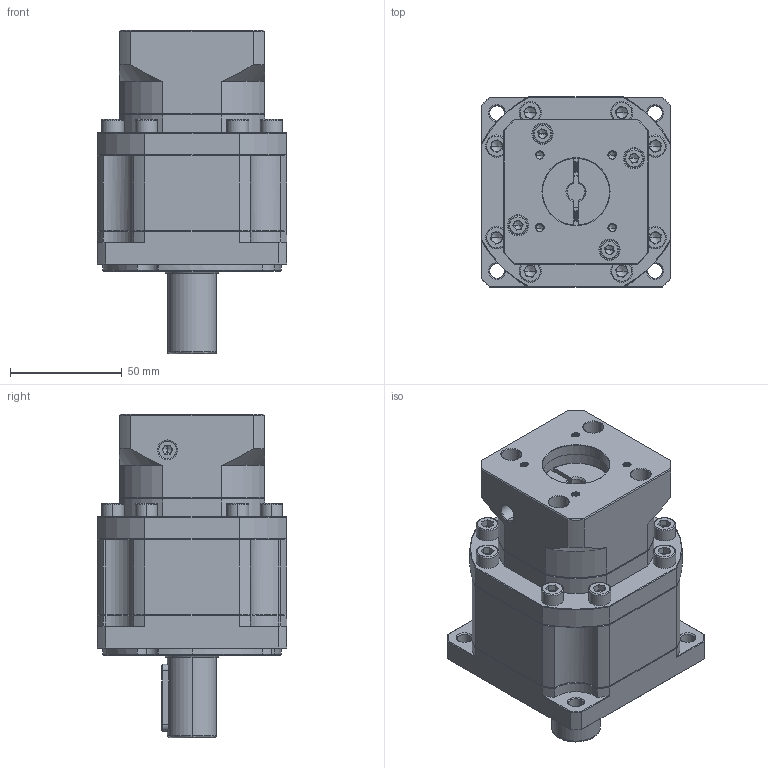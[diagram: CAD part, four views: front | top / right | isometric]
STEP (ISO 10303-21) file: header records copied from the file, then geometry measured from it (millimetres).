
FILE_DESCRIPTION (( 'STEP AP214' ), '1' );
FILE_NAME ('ZB90-D22-L2-8-30-46-M4.STEP', '2022-05-02T15:10:54', ( '' ), ( 'Microsoft' ), 'SwSTEP 2.0', 'SolidWorks 2016', '' );
FILE_SCHEMA (( 'AUTOMOTIVE_DESIGN' ));
Length unit declared in the file: millimetre
Products named in the file (1): ZB90-D22-L2-8-30-46-M4
Bounding box: 85 x 85 x 145 mm (x, y, z)
Volume: 552490.5 mm3; surface area: 76867.5 mm2
Topology: 6 solids, 6 shells, 2072 faces, 5430 edges, 3449 vertices
Faces by surface type: plane 1005, cylinder 394, bspline 328, cone 323, torus 22
Entity records: 107261 total; most frequent: CARTESIAN_POINT 36105, ORIENTED_EDGE 10768, DIRECTION 8911, EDGE_CURVE 5384, VERTEX_POINT 3449, LINE 3303, VECTOR 3303, AXIS2_PLACEMENT_3D 2804
